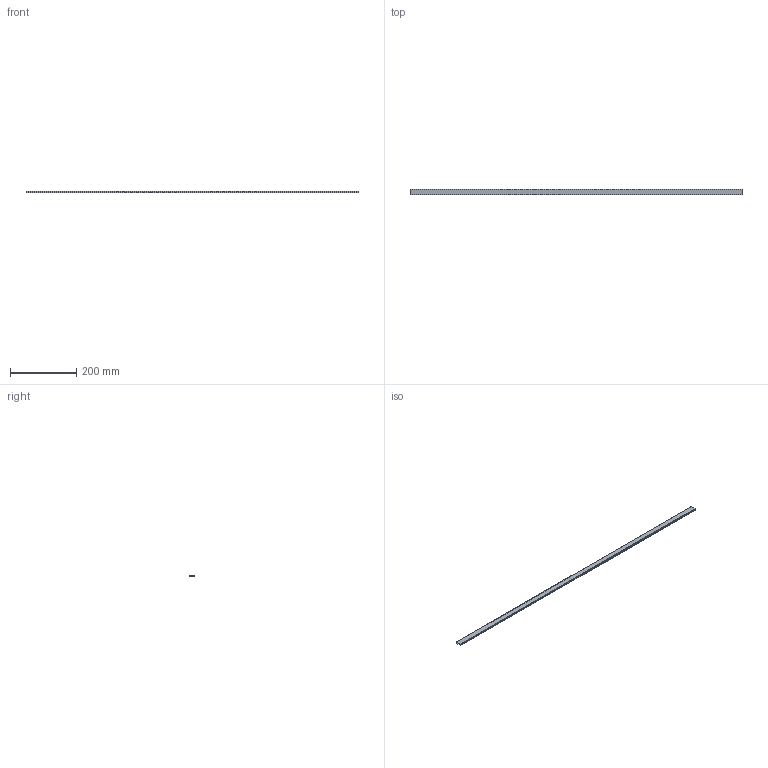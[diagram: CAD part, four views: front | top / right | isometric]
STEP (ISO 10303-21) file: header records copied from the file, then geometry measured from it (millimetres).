
FILE_DESCRIPTION (( 'STEP AP214' ), '1' );
FILE_NAME ('J3PNO.step', '2017-05-24T07:40:15', ( 'admin' ), ( '' ), 'SwSTEP 2.0', 'SolidWorks 2014', '' );
FILE_SCHEMA (( 'AUTOMOTIVE_DESIGN' ));
Length unit declared in the file: millimetre
Products named in the file (1): J3PNO
Bounding box: 1000 x 17 x 5.3 mm (x, y, z)
Volume: 41848.3 mm3; surface area: 73478 mm2
Topology: 1 solids, 1 shells, 12 faces, 30 edges, 20 vertices
Faces by surface type: plane 10, cylinder 2
Entity records: 392 total; most frequent: CARTESIAN_POINT 63, ORIENTED_EDGE 60, DIRECTION 60, EDGE_CURVE 30, LINE 26, VECTOR 26, VERTEX_POINT 20, AXIS2_PLACEMENT_3D 17
